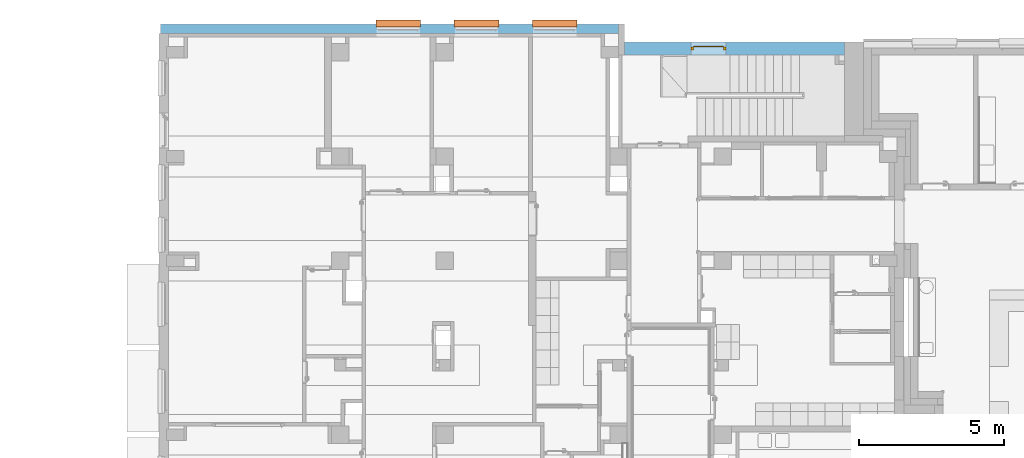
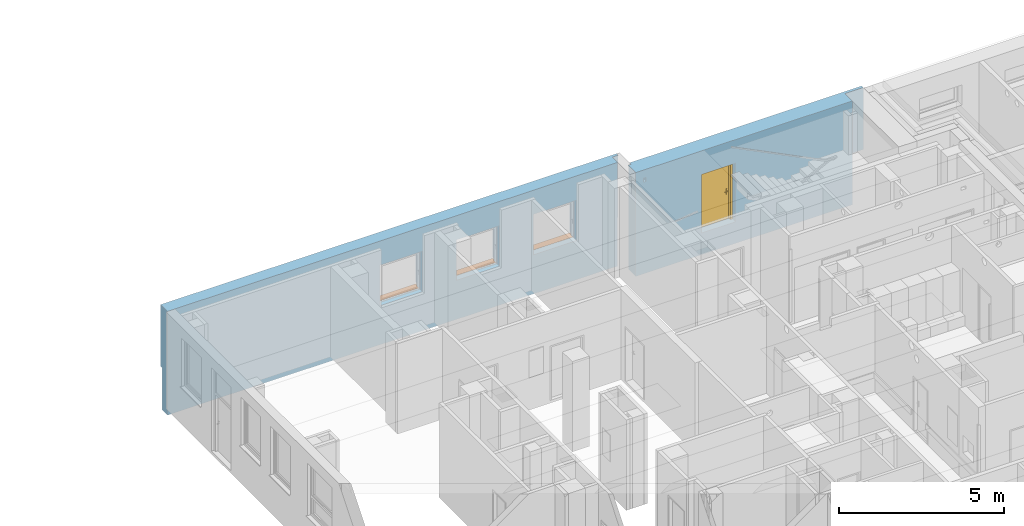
# One storey, part 104 of 140: 3 proxies, 1 door, 5 openings, plus 2 elements that do not belong to this part.
"""IFC4 building model written with IfcOpenShell, lengths in metres."""

from ifc_helpers import new_model, entity, si_unit, converted_unit, derived_unit, frame, origin, origin_with_axes, place, context, subcontext, project, spatial, polyline, outline, extrude, clip, bounded_halfspace, closed_shell, open_shell, faceted_brep, surface_model, source, transform, mapped, material, layer, layer_set, layer_usage, type_object, element, fill, save


model = new_model("IFC4")

# Units and contexts
model_context = context("Model", 3, precision=1e-05, world=origin())
body_context = subcontext(model_context, "Body", "Model", "MODEL_VIEW")
ifc_project = project(units=[si_unit("LENGTHUNIT", "METRE"), si_unit("AREAUNIT", "SQUARE_METRE"), si_unit("VOLUMEUNIT", "CUBIC_METRE"), si_unit("MASSUNIT", "GRAM", prefix="KILO"), converted_unit("PLANEANGLEUNIT", "DEGREE", entity("IfcPlaneAngleMeasure", 0.0174532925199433), si_unit("PLANEANGLEUNIT", "RADIAN"), dimensions=[0, 0, 0, 0, 0, 0, 0]), derived_unit("THERMALTRANSMITTANCEUNIT", [(si_unit("POWERUNIT", "WATT"), 1), (si_unit("THERMODYNAMICTEMPERATUREUNIT", "KELVIN"), -1), (si_unit("LENGTHUNIT", "METRE"), -2)]), derived_unit("VOLUMETRICFLOWRATEUNIT", [(si_unit("LENGTHUNIT", "METRE"), 3), (converted_unit("TIMEUNIT", "hour", entity("IfcTimeMeasure", 3600.0), si_unit("TIMEUNIT", "SECOND"), dimensions=[0, 0, 1, 0, 0, 0, 0]), -1), (si_unit("LENGTHUNIT", "METRE"), -1)])], contexts=[model_context])

# Site, building, storey
site_placement = place(None, origin())
site = spatial("IfcSite", under=ifc_project, at=site_placement, Name="3. ASŘ", CompositionType="ELEMENT")
building_placement = place(site_placement, origin())
building = spatial("IfcBuilding", under=site, at=building_placement, Name="Pavilon C", CompositionType="ELEMENT")
storey_placement = place(building_placement, origin())
storey = spatial("IfcBuildingStorey", under=building, at=storey_placement, Name="Půdorys 1.NP", CompositionType="ELEMENT", Elevation=0.0)

# Wall, openings, proxies
ifc_material_1 = material(Name="ZELEZOBETONOVÁ KCE")
ifc_layer_1 = layer(ifc_material_1, 0.320000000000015)
ifc_material_2 = material(Name="EPS")
ifc_layer_2 = layer(ifc_material_2, 0.1)
ifc_layer_set_1 = layer_set([ifc_layer_1, ifc_layer_2])
ifc_layer_usage_1 = layer_usage(ifc_layer_set_1, "AXIS2", "POSITIVE", 0.0)
wall_1_placement = place(storey_placement, frame((24.55, 33.05, -0.35), z_axis=(0.0, 0.0, 1.0), x_axis=(1.0, -4.60503646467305e-16, 0.0)))
wall_1 = element("IfcWall", 1, at=wall_1_placement, inside=storey, material=ifc_layer_usage_1, Name="ZELEZOBETONOVÁ KCE", context=body_context, shape_type="Clipping", body=[
    clip(extrude(outline(polyline([(-3.35060501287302e-30, 7.27595761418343e-15), (15.8, 7.27595761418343e-15), (15.8, 0.320000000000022), (16.0, 0.320000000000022), (16.0, 0.420000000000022), (-1.93411531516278e-16, 0.420000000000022), (-3.35060501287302e-30, 7.27595761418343e-15)])), frame((3.35060501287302e-30, -7.27595761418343e-15, 0.0), z_axis=(0.0, 0.0, 1.0), x_axis=(1.0, 0.0, 0.0)), (0.0, 0.0, 1.0), 3.85), bounded_halfspace(frame((9.56, 0.360000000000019, 1.55), z_axis=(-5.23532033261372e-31, 1.13686837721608e-15, 1.0), x_axis=(4.60503646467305e-16, -1.0, 0.0)), True, origin_with_axes(), polyline([(-1.93411531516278e-16, 0.420000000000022), (-1.47361166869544e-16, 0.320000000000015), (15.8, 0.320000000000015), (16.0, 0.320000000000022), (16.0, 0.420000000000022), (-1.93411531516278e-16, 0.420000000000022)]))),
])
opening_1_placement = place(wall_1_placement, frame((8.95, 0.320000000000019, 1.45), z_axis=(0.0, -1.0, 0.0), x_axis=(0.0, 0.0, 1.0)))
opening_1 = element("IfcOpeningElement", 2, at=opening_1_placement, cuts=wall_1, Name="Okenní otvor", ObjectType="Opening", context=body_context, shape_type="SweptSolid", body=[
    extrude(outline(polyline([(0.0, 1.5), (1.5, 1.5), (1.5, 0.0), (0.0, 0.0), (0.0, 1.5)])), origin_with_axes(), (0.0, 0.0, 1.0), 0.320000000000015),
    extrude(outline(polyline([(0.0, 1.5), (1.5, 1.5), (1.5, 0.0), (0.0, 0.0), (0.0, 1.5)])), frame((0.0, 0.0, -0.1), z_axis=(0.0, 0.0, 1.0), x_axis=(1.0, 0.0, 0.0)), (0.0, 0.0, 1.0), 0.1),
])
opening_2_placement = place(wall_1_placement, frame((11.65, 0.320000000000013, 1.45), z_axis=(0.0, -1.0, 0.0), x_axis=(0.0, 0.0, 1.0)))
opening_2 = element("IfcOpeningElement", 3, at=opening_2_placement, cuts=wall_1, Name="Okenní otvor", ObjectType="Opening", context=body_context, shape_type="SweptSolid", body=[
    extrude(outline(polyline([(0.0, 1.5), (1.5, 1.5), (1.5, 0.0), (0.0, 0.0), (0.0, 1.5)])), origin_with_axes(), (0.0, 0.0, 1.0), 0.320000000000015),
    extrude(outline(polyline([(0.0, 1.5), (1.5, 1.5), (1.5, 0.0), (0.0, 0.0), (0.0, 1.5)])), frame((0.0, 0.0, -0.1), z_axis=(0.0, 0.0, 1.0), x_axis=(1.0, 0.0, 0.0)), (0.0, 0.0, 1.0), 0.1),
])
opening_3_placement = place(wall_1_placement, frame((14.35, 0.320000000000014, 1.45), z_axis=(0.0, -1.0, 0.0), x_axis=(0.0, 0.0, 1.0)))
opening_3 = element("IfcOpeningElement", 4, at=opening_3_placement, cuts=wall_1, Name="Okenní otvor", ObjectType="Opening", context=body_context, shape_type="SweptSolid", body=[
    extrude(outline(polyline([(0.0, 1.5), (1.5, 1.5), (1.5, 0.0), (0.0, 0.0), (0.0, 1.5)])), origin_with_axes(), (0.0, 0.0, 1.0), 0.320000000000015),
    extrude(outline(polyline([(0.0, 1.5), (1.5, 1.5), (1.5, 0.0), (0.0, 0.0), (0.0, 1.5)])), frame((0.0, 0.0, -0.1), z_axis=(0.0, 0.0, 1.0), x_axis=(1.0, 0.0, 0.0)), (0.0, 0.0, 1.0), 0.1),
])
ifc_material_3 = material(Name="PLECH")
shared_shape_1 = source(origin_with_axes(), body_context, "Body", "Brep", [
    faceted_brep([(0.0, -0.1, 0.0), (0.0, 0.1, 0.0), (0.0, 0.1, 0.005), (0.0, -0.1, 0.005), (1.5, -0.1, 0.0), (1.5, -0.1, 0.005), (1.5, 0.1, 0.005), (1.5, 0.1, 0.0), (-0.02, -0.1, 0.0), (-0.02, -0.135, 0.0), (1.52, -0.135, 0.0), (1.52, -0.1, 0.0), (1.52, -0.1, 0.005), (1.52, -0.14, 0.005), (-0.02, -0.14, 0.005), (-0.02, -0.1, 0.005), (-0.02, -0.14, -0.025), (-0.02, -0.135, -0.025), (1.52, -0.135, -0.025), (1.52, -0.14, -0.025)], [[[0, 1, 2, 3]], [[4, 5, 6, 7]], [[1, 0, 8, 9, 10, 11, 4, 7]], [[2, 1, 7, 6]], [[3, 2, 6, 5, 12, 13, 14, 15]], [[8, 15, 14, 16, 17, 9]], [[11, 10, 18, 19, 13, 12]], [[15, 8, 0, 3]], [[5, 4, 11, 12]], [[16, 14, 13, 19]], [[17, 16, 19, 18]], [[9, 17, 18, 10]]], orient=[[False], [False], [False], [False], [False], [False], [False], [False], [False], [False], [False], [False]]),
    faceted_brep([(-0.02, -0.1, 0.0), (-0.02, 0.1, 0.0), (-0.02, 0.1, 0.005), (-0.02, -0.1, 0.005), (0.0, -0.1, 0.0), (0.0, -0.1, 0.005), (0.0, 0.1, 0.005), (0.0, 0.1, 0.0)], [[[0, 1, 2, 3]], [[4, 5, 6, 7]], [[1, 0, 4, 7]], [[2, 1, 7, 6]], [[3, 2, 6, 5]], [[0, 3, 5, 4]]], orient=[[False], [False], [False], [False], [False], [False]]),
    faceted_brep([(1.5, -0.1, 0.0), (1.5, 0.1, 0.0), (1.5, 0.1, 0.005), (1.5, -0.1, 0.005), (1.52, -0.1, 0.0), (1.52, -0.1, 0.005), (1.52, 0.1, 0.005), (1.52, 0.1, 0.0)], [[[0, 1, 2, 3]], [[4, 5, 6, 7]], [[1, 0, 4, 7]], [[2, 1, 7, 6]], [[3, 2, 6, 5]], [[0, 3, 5, 4]]], orient=[[False], [False], [False], [False], [False], [False]]),
])
proxy_1_placement = place(opening_1_placement, frame((0.0, 0.0, 0.0), z_axis=(1.0, 0.0, 0.0), x_axis=(0.0, 1.0, 0.0)))
proxy_1 = element("IfcBuildingElementProxy", 5, at=proxy_1_placement, inside=storey, material=ifc_material_3, Name="Parapet vnější", context=body_context, shape_type="MappedRepresentation", body=[
    mapped(shared_shape_1, transform((0.0, 0.0, 0.0), x_axis=(1.0, 0.0, 0.0), y_axis=(0.0, 1.0, 0.0), z_axis=(0.0, 0.0, 1.0), scale=1.0)),
])
fill(opening_1, proxy_1)
ifc_material_4 = material(Name="PLECH")
shared_shape_2 = source(origin_with_axes(), body_context, "Body", "Brep", [
    faceted_brep([(0.0, -0.1, 0.0), (0.0, 0.1, 0.0), (0.0, 0.1, 0.005), (0.0, -0.1, 0.005), (1.5, -0.1, 0.0), (1.5, -0.1, 0.005), (1.5, 0.1, 0.005), (1.5, 0.1, 0.0), (-0.02, -0.1, 0.0), (-0.02, -0.135, 0.0), (1.52, -0.135, 0.0), (1.52, -0.1, 0.0), (1.52, -0.1, 0.005), (1.52, -0.14, 0.005), (-0.02, -0.14, 0.005), (-0.02, -0.1, 0.005), (-0.02, -0.14, -0.025), (-0.02, -0.135, -0.025), (1.52, -0.135, -0.025), (1.52, -0.14, -0.025)], [[[0, 1, 2, 3]], [[4, 5, 6, 7]], [[1, 0, 8, 9, 10, 11, 4, 7]], [[2, 1, 7, 6]], [[3, 2, 6, 5, 12, 13, 14, 15]], [[8, 15, 14, 16, 17, 9]], [[11, 10, 18, 19, 13, 12]], [[15, 8, 0, 3]], [[5, 4, 11, 12]], [[16, 14, 13, 19]], [[17, 16, 19, 18]], [[9, 17, 18, 10]]], orient=[[False], [False], [False], [False], [False], [False], [False], [False], [False], [False], [False], [False]]),
    faceted_brep([(-0.02, -0.1, 0.0), (-0.02, 0.1, 0.0), (-0.02, 0.1, 0.005), (-0.02, -0.1, 0.005), (0.0, -0.1, 0.0), (0.0, -0.1, 0.005), (0.0, 0.1, 0.005), (0.0, 0.1, 0.0)], [[[0, 1, 2, 3]], [[4, 5, 6, 7]], [[1, 0, 4, 7]], [[2, 1, 7, 6]], [[3, 2, 6, 5]], [[0, 3, 5, 4]]], orient=[[False], [False], [False], [False], [False], [False]]),
    faceted_brep([(1.5, -0.1, 0.0), (1.5, 0.1, 0.0), (1.5, 0.1, 0.005), (1.5, -0.1, 0.005), (1.52, -0.1, 0.0), (1.52, -0.1, 0.005), (1.52, 0.1, 0.005), (1.52, 0.1, 0.0)], [[[0, 1, 2, 3]], [[4, 5, 6, 7]], [[1, 0, 4, 7]], [[2, 1, 7, 6]], [[3, 2, 6, 5]], [[0, 3, 5, 4]]], orient=[[False], [False], [False], [False], [False], [False]]),
])
proxy_2_placement = place(opening_2_placement, frame((0.0, 0.0, 0.0), z_axis=(1.0, 0.0, 0.0), x_axis=(0.0, 1.0, 0.0)))
proxy_2 = element("IfcBuildingElementProxy", 6, at=proxy_2_placement, inside=storey, material=ifc_material_4, Name="Parapet vnější", context=body_context, shape_type="MappedRepresentation", body=[
    mapped(shared_shape_2, transform((0.0, 0.0, 0.0), x_axis=(1.0, 0.0, 0.0), y_axis=(0.0, 1.0, 0.0), z_axis=(0.0, 0.0, 1.0), scale=1.0)),
])
fill(opening_2, proxy_2)
ifc_material_5 = material(Name="PLECH")
shared_shape_3 = source(origin_with_axes(), body_context, "Body", "Brep", [
    faceted_brep([(0.0, -0.1, 0.0), (0.0, 0.1, 0.0), (0.0, 0.1, 0.005), (0.0, -0.1, 0.005), (1.5, -0.1, 0.0), (1.5, -0.1, 0.005), (1.5, 0.1, 0.005), (1.5, 0.1, 0.0), (-0.02, -0.1, 0.0), (-0.02, -0.135, 0.0), (1.52, -0.135, 0.0), (1.52, -0.1, 0.0), (1.52, -0.1, 0.005), (1.52, -0.14, 0.005), (-0.02, -0.14, 0.005), (-0.02, -0.1, 0.005), (-0.02, -0.14, -0.025), (-0.02, -0.135, -0.025), (1.52, -0.135, -0.025), (1.52, -0.14, -0.025)], [[[0, 1, 2, 3]], [[4, 5, 6, 7]], [[1, 0, 8, 9, 10, 11, 4, 7]], [[2, 1, 7, 6]], [[3, 2, 6, 5, 12, 13, 14, 15]], [[8, 15, 14, 16, 17, 9]], [[11, 10, 18, 19, 13, 12]], [[15, 8, 0, 3]], [[5, 4, 11, 12]], [[16, 14, 13, 19]], [[17, 16, 19, 18]], [[9, 17, 18, 10]]], orient=[[False], [False], [False], [False], [False], [False], [False], [False], [False], [False], [False], [False]]),
    faceted_brep([(-0.02, -0.1, 0.0), (-0.02, 0.1, 0.0), (-0.02, 0.1, 0.005), (-0.02, -0.1, 0.005), (0.0, -0.1, 0.0), (0.0, -0.1, 0.005), (0.0, 0.1, 0.005), (0.0, 0.1, 0.0)], [[[0, 1, 2, 3]], [[4, 5, 6, 7]], [[1, 0, 4, 7]], [[2, 1, 7, 6]], [[3, 2, 6, 5]], [[0, 3, 5, 4]]], orient=[[False], [False], [False], [False], [False], [False]]),
    faceted_brep([(1.5, -0.1, 0.0), (1.5, 0.1, 0.0), (1.5, 0.1, 0.005), (1.5, -0.1, 0.005), (1.52, -0.1, 0.0), (1.52, -0.1, 0.005), (1.52, 0.1, 0.005), (1.52, 0.1, 0.0)], [[[0, 1, 2, 3]], [[4, 5, 6, 7]], [[1, 0, 4, 7]], [[2, 1, 7, 6]], [[3, 2, 6, 5]], [[0, 3, 5, 4]]], orient=[[False], [False], [False], [False], [False], [False]]),
])
proxy_3_placement = place(opening_3_placement, frame((0.0, 0.0, 0.0), z_axis=(1.0, 0.0, 0.0), x_axis=(0.0, 1.0, 0.0)))
proxy_3 = element("IfcBuildingElementProxy", 7, at=proxy_3_placement, inside=storey, material=ifc_material_5, Name="Parapet vnější", context=body_context, shape_type="MappedRepresentation", body=[
    mapped(shared_shape_3, transform((0.0, 0.0, 0.0), x_axis=(1.0, 0.0, 0.0), y_axis=(0.0, 1.0, 0.0), z_axis=(0.0, 0.0, 1.0), scale=1.0)),
])
fill(opening_3, proxy_3)

# Wall, openings, door
ifc_material_6 = material(Name="ZELEZOBETONOVÁ KCE")
ifc_layer_3 = layer(ifc_material_6, 0.45)
ifc_material_7 = material(Name="EPS")
ifc_layer_4 = layer(ifc_material_7, 0.1)
ifc_layer_set_2 = layer_set([ifc_layer_3, ifc_layer_4])
ifc_layer_usage_2 = layer_usage(ifc_layer_set_2, "AXIS2", "POSITIVE", 0.0)
wall_2_placement = place(storey_placement, frame((40.55, 32.3, -0.35)))
wall_2 = element("IfcWall", 8, at=wall_2_placement, inside=storey, material=ifc_layer_usage_2, Name="ZELEZOBETONOVÁ KCE", context=body_context, shape_type="Clipping", body=[
    clip(extrude(outline(polyline([(0.0, 0.0), (7.59999999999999, 0.0), (7.59999999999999, 0.45), (8.24999999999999, 0.45), (8.24999999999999, 0.55), (0.1, 0.55), (0.1, 0.45), (0.0, 0.45), (0.0, 0.0)])), origin_with_axes(), (0.0, 0.0, 1.0), 3.85), bounded_halfspace(frame((4.85999999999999, 0.490000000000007, 1.55), z_axis=(0.0, 1.13686837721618e-15, 1.0), x_axis=(0.0, -1.0, 0.0)), True, origin_with_axes(), polyline([(0.0999999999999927, 0.55), (0.0999999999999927, 0.450000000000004), (7.59999999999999, 0.45), (8.24999999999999, 0.450000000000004), (8.24999999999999, 0.55), (0.0999999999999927, 0.55)]))),
])
opening_4_placement = place(wall_2_placement, frame((3.49999999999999, 0.45, 0.8), z_axis=(0.0, -1.0, 0.0), x_axis=(0.0, 0.0, 1.0)))
opening_4 = element("IfcOpeningElement", 9, at=opening_4_placement, cuts=wall_2, Name="Dveřní otvor", ObjectType="Opening", context=body_context, shape_type="SweptSolid", body=[
    extrude(outline(polyline([(0.0, 1.2), (2.18, 1.2), (2.18, 0.0), (0.0, 0.0), (0.0, 1.2)])), origin_with_axes(), (0.0, 0.0, 1.0), 0.45),
    extrude(outline(polyline([(0.0, 1.2), (2.18, 1.2), (2.18, 0.0), (0.0, 0.0), (0.0, 1.2)])), frame((0.0, 0.0, -0.1), z_axis=(0.0, 0.0, 1.0), x_axis=(1.0, 0.0, 0.0)), (0.0, 0.0, 1.0), 0.1),
])
opening_5_placement = place(wall_2_placement, frame((0.268639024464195, 0.0, 3.4), z_axis=(0.0, 1.0, 0.0), x_axis=(0.0, 0.0, 1.0)))
element("IfcOpeningElement", 10, at=opening_5_placement, cuts=wall_2, Name="CHL", ObjectType="Opening", context=body_context, shape_type="SweptSolid", body=[
    extrude(outline(polyline([(0.0, 0.1), (0.15, 0.1), (0.15, 0.0), (0.0, 0.0), (0.0, 0.1)])), origin_with_axes(), (0.0, 0.0, 1.0), 0.55),
])
door_type = type_object("IfcDoorType", Name="D101", OperationType="NOTDEFINED", ParameterTakesPrecedence=False, PredefinedType="DOOR")
shared_shape_4 = source(origin_with_axes(), body_context, "Body", "SurfaceModel", [
    surface_model("IfcShellBasedSurfaceModel", [(0.0, 0.0920000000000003, 2.18), (0.0, 0.092, -5.63337527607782e-18), (0.08, 0.092, -5.63337527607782e-18), (0.08, 0.0920000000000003, 2.18), (0.0, 0.0, 5.63337527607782e-18), (0.0, 2.8421709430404e-16, 2.18), (0.08, 2.8421709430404e-16, 2.18), (0.08, 0.0, 5.63337527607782e-18)], [closed_shell([[[0, 1, 2, 3]], [[4, 5, 6, 7]], [[1, 0, 5, 4]], [[2, 1, 4, 7]], [[3, 2, 7, 6]], [[0, 3, 6, 5]]], orient=[[False], [False], [False], [False], [False], [False]])]),
    surface_model("IfcShellBasedSurfaceModel", [(1.12, 0.0920000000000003, 2.18), (1.12, 0.092, -5.63337527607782e-18), (1.2, 0.092, -5.63337527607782e-18), (1.2, 0.0920000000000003, 2.18), (1.12, 0.0, 5.63337527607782e-18), (1.12, 2.8421709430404e-16, 2.18), (1.2, 2.8421709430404e-16, 2.18), (1.2, 0.0, 5.63337527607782e-18)], [closed_shell([[[0, 1, 2, 3]], [[4, 5, 6, 7]], [[1, 0, 5, 4]], [[2, 1, 4, 7]], [[3, 2, 7, 6]], [[0, 3, 6, 5]]], orient=[[False], [False], [False], [False], [False], [False]])]),
    surface_model("IfcShellBasedSurfaceModel", [(0.08, 0.0920000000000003, 2.18), (0.08, 0.0920000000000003, 2.1), (1.12, 0.0920000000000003, 2.1), (1.12, 0.0920000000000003, 2.18), (0.08, 2.8421709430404e-16, 2.1), (0.08, 3.12638803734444e-16, 2.18), (1.12, 3.12638803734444e-16, 2.18), (1.12, 2.8421709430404e-16, 2.1)], [closed_shell([[[0, 1, 2, 3]], [[4, 5, 6, 7]], [[1, 0, 5, 4]], [[2, 1, 4, 7]], [[3, 2, 7, 6]], [[0, 3, 6, 5]]], orient=[[False], [False], [False], [False], [False], [False]])]),
    surface_model("IfcShellBasedSurfaceModel", [(0.08, 0.132, 2.1), (0.08, 0.132, -1.05319624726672e-17), (1.12, 0.132, -1.05319624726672e-17), (1.12, 0.132, 2.1), (0.08, 0.092, -5.63337527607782e-18), (0.08, 0.0920000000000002, 2.1), (1.12, 0.0920000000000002, 2.1), (1.12, 0.092, -5.63337527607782e-18)], [closed_shell([[[0, 1, 2, 3]], [[4, 5, 6, 7]], [[1, 0, 5, 4]], [[2, 1, 4, 7]], [[3, 2, 7, 6]], [[0, 3, 6, 5]]], orient=[[False], [False], [False], [False], [False], [False]])]),
    surface_model("IfcShellBasedSurfaceModel", [(1.03, 0.0920000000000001, 1.125), (1.03, 0.0920000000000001, 0.91), (1.08, 0.0920000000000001, 0.91), (1.08, 0.0920000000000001, 1.125), (1.03, 0.0820000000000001, 0.91), (1.03, 0.0820000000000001, 1.125), (1.08, 0.0820000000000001, 1.125), (1.08, 0.0820000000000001, 0.91)], [closed_shell([[[0, 1, 2, 3]], [[4, 5, 6, 7]], [[1, 0, 5, 4]], [[2, 1, 4, 7]], [[3, 2, 7, 6]], [[0, 3, 6, 5]]], orient=[[False], [False], [False], [False], [False], [False]])]),
    surface_model("IfcShellBasedSurfaceModel", [(1.055, 0.0820000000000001, 1.06), (1.05, 0.0820000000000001, 1.05866025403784), (1.04633974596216, 0.0820000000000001, 1.055), (1.045, 0.0820000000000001, 1.05), (1.04633974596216, 0.0820000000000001, 1.045), (1.05, 0.0820000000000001, 1.04133974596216), (1.055, 0.0820000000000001, 1.04), (1.06, 0.0820000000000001, 1.04133974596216), (1.06366025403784, 0.0820000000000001, 1.045), (1.065, 0.0820000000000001, 1.05), (1.06366025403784, 0.0820000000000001, 1.055), (1.06, 0.0820000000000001, 1.05866025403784), (1.06, 0.0370000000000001, 1.05866025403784), (1.055, 0.0420000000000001, 1.06), (1.06366025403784, 0.0333397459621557, 1.055), (1.065, 0.0320000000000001, 1.05), (1.06366025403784, 0.0333397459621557, 1.045), (1.06, 0.0370000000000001, 1.04133974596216), (1.055, 0.0420000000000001, 1.04), (1.05, 0.0470000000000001, 1.04133974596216), (1.04633974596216, 0.0506602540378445, 1.045), (1.045, 0.0520000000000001, 1.05), (1.04633974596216, 0.0506602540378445, 1.055), (1.05, 0.0470000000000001, 1.05866025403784), (0.94, 0.0370000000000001, 1.05866025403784), (0.94, 0.0420000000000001, 1.06), (0.94, 0.0333397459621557, 1.055), (0.94, 0.0320000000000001, 1.05), (0.94, 0.0333397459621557, 1.045), (0.94, 0.0370000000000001, 1.04133974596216), (0.94, 0.0420000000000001, 1.04), (0.94, 0.0470000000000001, 1.04133974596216), (0.94, 0.0506602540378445, 1.045), (0.94, 0.0520000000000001, 1.05), (0.94, 0.0506602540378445, 1.055), (0.94, 0.0470000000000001, 1.05866025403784)], [open_shell([[[0, 1, 2, 3, 4, 5, 6, 7, 8, 9, 10, 11]], [[0, 11, 12, 13]], [[11, 10, 14, 12]], [[10, 9, 15, 14]], [[9, 8, 16, 15]], [[8, 7, 17, 16]], [[7, 6, 18, 17]], [[6, 5, 19, 18]], [[5, 4, 20, 19]], [[4, 3, 21, 20]], [[3, 2, 22, 21]], [[2, 1, 23, 22]], [[1, 0, 13, 23]], [[13, 12, 24, 25]], [[12, 14, 26, 24]], [[14, 15, 27, 26]], [[15, 16, 28, 27]], [[16, 17, 29, 28]], [[17, 18, 30, 29]], [[18, 19, 31, 30]], [[19, 20, 32, 31]], [[20, 21, 33, 32]], [[21, 22, 34, 33]], [[22, 23, 35, 34]], [[23, 13, 25, 35]]], orient=[[False], [False], [False], [False], [False], [False], [False], [False], [False], [False], [False], [False], [False], [False], [False], [False], [False], [False], [False], [False], [False], [False], [False], [False], [False]])]),
    surface_model("IfcShellBasedSurfaceModel", [(1.03, 0.132, 1.125), (1.08, 0.132, 1.125), (1.08, 0.132, 0.91), (1.03, 0.132, 0.91), (1.03, 0.142, 0.91), (1.08, 0.142, 0.91), (1.08, 0.142, 1.125), (1.03, 0.142, 1.125)], [closed_shell([[[0, 1, 2, 3]], [[4, 5, 6, 7]], [[3, 4, 7, 0]], [[2, 5, 4, 3]], [[1, 6, 5, 2]], [[0, 7, 6, 1]]], orient=[[False], [False], [False], [False], [False], [False]])]),
    surface_model("IfcShellBasedSurfaceModel", [(1.06366025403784, 0.142, 1.045), (1.06, 0.142, 1.04133974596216), (1.055, 0.142, 1.04), (1.05, 0.142, 1.04133974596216), (1.04633974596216, 0.142, 1.045), (1.045, 0.142, 1.05), (1.04633974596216, 0.142, 1.055), (1.05, 0.142, 1.05866025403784), (1.055, 0.142, 1.06), (1.06, 0.142, 1.05866025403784), (1.06366025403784, 0.142, 1.055), (1.065, 0.142, 1.05), (1.065, 0.182, 1.05), (1.06366025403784, 0.182, 1.055), (1.06, 0.182, 1.05866025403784), (1.055, 0.182, 1.06), (1.05, 0.182, 1.05866025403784), (1.04633974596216, 0.182, 1.055), (1.045, 0.182, 1.05), (1.04633974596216, 0.182, 1.045), (1.05, 0.182, 1.04133974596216), (1.055, 0.182, 1.04), (1.06, 0.182, 1.04133974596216), (1.06366025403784, 0.182, 1.045)], [closed_shell([[[0, 1, 2, 3, 4, 5, 6, 7, 8, 9, 10, 11]], [[12, 13, 14, 15, 16, 17, 18, 19, 20, 21, 22, 23]], [[11, 12, 23, 0]], [[10, 13, 12, 11]], [[9, 14, 13, 10]], [[8, 15, 14, 9]], [[7, 16, 15, 8]], [[6, 17, 16, 7]], [[5, 18, 17, 6]], [[4, 19, 18, 5]], [[3, 20, 19, 4]], [[2, 21, 20, 3]], [[1, 22, 21, 2]], [[0, 23, 22, 1]]], orient=[[False], [False], [False], [False], [False], [False], [False], [False], [False], [False], [False], [False], [False], [False]])]),
    surface_model("IfcShellBasedSurfaceModel", [(1.075, 0.182, 1.05), (1.07232050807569, 0.182, 1.06), (1.07, 0.192, 1.05866025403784), (1.07232050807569, 0.192, 1.05), (1.065, 0.182, 1.06732050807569), (1.06366025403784, 0.192, 1.065), (1.055, 0.182, 1.07), (1.055, 0.192, 1.06732050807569), (1.045, 0.182, 1.06732050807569), (1.04633974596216, 0.192, 1.065), (1.03767949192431, 0.182, 1.06), (1.04, 0.192, 1.05866025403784), (1.035, 0.182, 1.05), (1.03767949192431, 0.192, 1.05), (1.03767949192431, 0.182, 1.04), (1.04, 0.192, 1.04133974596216), (1.045, 0.182, 1.03267949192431), (1.04633974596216, 0.192, 1.035), (1.055, 0.182, 1.03), (1.055, 0.192, 1.03267949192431), (1.065, 0.182, 1.03267949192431), (1.06366025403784, 0.192, 1.035), (1.07232050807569, 0.182, 1.04), (1.07, 0.192, 1.04133974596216), (1.06366025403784, 0.199320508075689, 1.055), (1.065, 0.199320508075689, 1.05), (1.06, 0.199320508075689, 1.05866025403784), (1.055, 0.199320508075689, 1.06), (1.05, 0.199320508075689, 1.05866025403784), (1.04633974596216, 0.199320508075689, 1.055), (1.045, 0.199320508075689, 1.05), (1.04633974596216, 0.199320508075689, 1.045), (1.05, 0.199320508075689, 1.04133974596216), (1.055, 0.199320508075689, 1.04), (1.06, 0.199320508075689, 1.04133974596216), (1.06366025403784, 0.199320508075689, 1.045), (1.055, 0.202, 1.05), (1.07232050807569, 0.172, 1.05), (1.07, 0.172, 1.05866025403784), (1.06366025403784, 0.172, 1.065), (1.055, 0.172, 1.06732050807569), (1.04633974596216, 0.172, 1.065), (1.04, 0.172, 1.05866025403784), (1.03767949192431, 0.172, 1.05), (1.04, 0.172, 1.04133974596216), (1.04633974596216, 0.172, 1.035), (1.055, 0.172, 1.03267949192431), (1.06366025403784, 0.172, 1.035), (1.07, 0.172, 1.04133974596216), (1.065, 0.164679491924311, 1.05), (1.06366025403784, 0.164679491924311, 1.055), (1.06, 0.164679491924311, 1.05866025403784), (1.055, 0.164679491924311, 1.06), (1.05, 0.164679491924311, 1.05866025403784), (1.04633974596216, 0.164679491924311, 1.055), (1.045, 0.164679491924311, 1.05), (1.04633974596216, 0.164679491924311, 1.045), (1.05, 0.164679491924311, 1.04133974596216), (1.055, 0.164679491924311, 1.04), (1.06, 0.164679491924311, 1.04133974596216), (1.06366025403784, 0.164679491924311, 1.045), (1.055, 0.162, 1.05)], [closed_shell([[[0, 1, 2, 3]], [[1, 4, 5, 2]], [[4, 6, 7, 5]], [[6, 8, 9, 7]], [[8, 10, 11, 9]], [[10, 12, 13, 11]], [[12, 14, 15, 13]], [[14, 16, 17, 15]], [[16, 18, 19, 17]], [[18, 20, 21, 19]], [[20, 22, 23, 21]], [[22, 0, 3, 23]], [[3, 2, 24, 25]], [[2, 5, 26, 24]], [[5, 7, 27, 26]], [[7, 9, 28, 27]], [[9, 11, 29, 28]], [[11, 13, 30, 29]], [[13, 15, 31, 30]], [[15, 17, 32, 31]], [[17, 19, 33, 32]], [[19, 21, 34, 33]], [[21, 23, 35, 34]], [[23, 3, 25, 35]], [[25, 24, 36]], [[24, 26, 36]], [[26, 27, 36]], [[27, 28, 36]], [[28, 29, 36]], [[29, 30, 36]], [[30, 31, 36]], [[31, 32, 36]], [[32, 33, 36]], [[33, 34, 36]], [[34, 35, 36]], [[35, 25, 36]], [[37, 38, 1, 0]], [[38, 39, 4, 1]], [[39, 40, 6, 4]], [[40, 41, 8, 6]], [[41, 42, 10, 8]], [[42, 43, 12, 10]], [[43, 44, 14, 12]], [[44, 45, 16, 14]], [[45, 46, 18, 16]], [[46, 47, 20, 18]], [[47, 48, 22, 20]], [[48, 37, 0, 22]], [[49, 50, 38, 37]], [[50, 51, 39, 38]], [[51, 52, 40, 39]], [[52, 53, 41, 40]], [[53, 54, 42, 41]], [[54, 55, 43, 42]], [[55, 56, 44, 43]], [[56, 57, 45, 44]], [[57, 58, 46, 45]], [[58, 59, 47, 46]], [[59, 60, 48, 47]], [[60, 49, 37, 48]], [[61, 50, 49]], [[61, 51, 50]], [[61, 52, 51]], [[61, 53, 52]], [[61, 54, 53]], [[61, 55, 54]], [[61, 56, 55]], [[61, 57, 56]], [[61, 58, 57]], [[61, 59, 58]], [[61, 60, 59]], [[61, 49, 60]]], orient=[[False], [False], [False], [False], [False], [False], [False], [False], [False], [False], [False], [False], [False], [False], [False], [False], [False], [False], [False], [False], [False], [False], [False], [False], [False], [False], [False], [False], [False], [False], [False], [False], [False], [False], [False], [False], [False], [False], [False], [False], [False], [False], [False], [False], [False], [False], [False], [False], [False], [False], [False], [False], [False], [False], [False], [False], [False], [False], [False], [False], [False], [False], [False], [False], [False], [False], [False], [False], [False], [False], [False], [False]])]),
])
door_placement = place(opening_4_placement, frame((0.0, 1.2, 0.271), z_axis=(1.0, 0.0, 0.0), x_axis=(0.0, -1.0, 2.44929359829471e-16)))
door = element("IfcDoor", 11, at=door_placement, inside=storey, type_object=door_type, Name="D101", OverallHeight=2.18, OverallWidth=1.2, context=body_context, shape_type="MappedRepresentation", body=[
    mapped(shared_shape_4, transform((0.0, 0.0, 0.0), x_axis=(1.0, 0.0, 0.0), y_axis=(0.0, 1.0, 0.0), z_axis=(0.0, 0.0, 1.0), scale=1.0)),
])
fill(opening_4, door)

save(model, "model.ifc")
